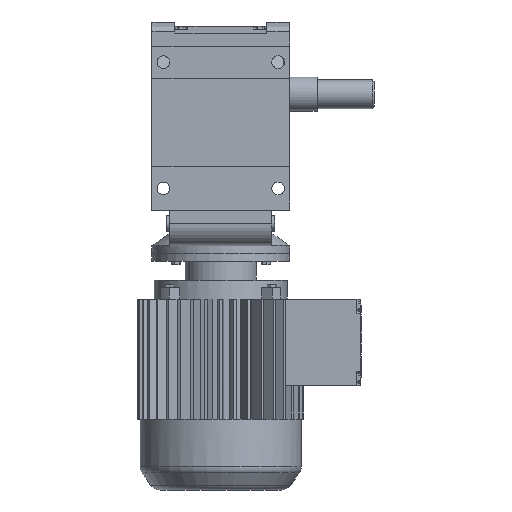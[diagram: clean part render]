
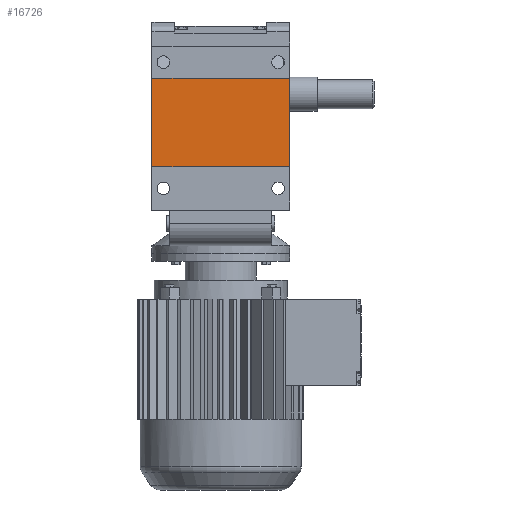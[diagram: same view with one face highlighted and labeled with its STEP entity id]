
A CAD part, front view. The second image highlights one B-rep face of the part: STEP entity #16726.
In plain terms, the highlighted planar face has unit normal (0, -1, 0).
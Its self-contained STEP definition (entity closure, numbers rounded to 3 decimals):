
#6303 = PLANE('',#6304);
#6304 = AXIS2_PLACEMENT_3D('',#6305,#6306,#6307);
#6305 = CARTESIAN_POINT('',(60.,-75.5,42.));
#6306 = DIRECTION('',(1.,0.,0.));
#6307 = DIRECTION('',(0.,0.,-1.));
#6929 = PLANE('',#6930);
#6930 = AXIS2_PLACEMENT_3D('',#6931,#6932,#6933);
#6931 = CARTESIAN_POINT('',(-60.,-75.5,42.));
#6932 = DIRECTION('',(1.,0.,0.));
#6933 = DIRECTION('',(0.,0.,-1.));
#11347 = VERTEX_POINT('',#11348);
#11348 = CARTESIAN_POINT('',(60.,-96.5,14.));
#11362 = PLANE('',#11363);
#11363 = AXIS2_PLACEMENT_3D('',#11364,#11365,#11366);
#11364 = CARTESIAN_POINT('',(60.,-96.5,14.));
#11365 = DIRECTION('',(0.,0.,1.));
#11366 = DIRECTION('',(0.,-1.,0.));
#11374 = EDGE_CURVE('',#11347,#11375,#11377,.T.);
#11375 = VERTEX_POINT('',#11376);
#11376 = CARTESIAN_POINT('',(60.,-96.5,-63.));
#11377 = SURFACE_CURVE('',#11378,(#11382,#11389),.PCURVE_S1.);
#11378 = LINE('',#11379,#11380);
#11379 = CARTESIAN_POINT('',(60.,-96.5,14.));
#11380 = VECTOR('',#11381,1.);
#11381 = DIRECTION('',(0.,0.,-1.));
#11382 = PCURVE('',#6303,#11383);
#11383 = DEFINITIONAL_REPRESENTATION('',(#11384),#11388);
#11384 = LINE('',#11385,#11386);
#11385 = CARTESIAN_POINT('',(28.,-21.));
#11386 = VECTOR('',#11387,1.);
#11387 = DIRECTION('',(1.,0.));
#11388 = ( GEOMETRIC_REPRESENTATION_CONTEXT(2) 
PARAMETRIC_REPRESENTATION_CONTEXT() REPRESENTATION_CONTEXT('2D SPACE',''
  ) );
#11389 = PCURVE('',#11390,#11395);
#11390 = PLANE('',#11391);
#11391 = AXIS2_PLACEMENT_3D('',#11392,#11393,#11394);
#11392 = CARTESIAN_POINT('',(44.5,-96.5,47.));
#11393 = DIRECTION('',(0.,1.,0.));
#11394 = DIRECTION('',(0.,0.,1.));
#11395 = DEFINITIONAL_REPRESENTATION('',(#11396),#11400);
#11396 = LINE('',#11397,#11398);
#11397 = CARTESIAN_POINT('',(-33.,15.5));
#11398 = VECTOR('',#11399,1.);
#11399 = DIRECTION('',(-1.,0.));
#11400 = ( GEOMETRIC_REPRESENTATION_CONTEXT(2) 
PARAMETRIC_REPRESENTATION_CONTEXT() REPRESENTATION_CONTEXT('2D SPACE',''
  ) );
#11418 = PLANE('',#11419);
#11419 = AXIS2_PLACEMENT_3D('',#11420,#11421,#11422);
#11420 = CARTESIAN_POINT('',(60.,-96.5,-63.));
#11421 = DIRECTION('',(0.,0.,-1.));
#11422 = DIRECTION('',(-1.,0.,0.));
#13243 = VERTEX_POINT('',#13244);
#13244 = CARTESIAN_POINT('',(-60.,-96.5,-63.));
#13265 = EDGE_CURVE('',#13266,#13243,#13268,.T.);
#13266 = VERTEX_POINT('',#13267);
#13267 = CARTESIAN_POINT('',(-60.,-96.5,14.));
#13268 = SURFACE_CURVE('',#13269,(#13273,#13280),.PCURVE_S1.);
#13269 = LINE('',#13270,#13271);
#13270 = CARTESIAN_POINT('',(-60.,-96.5,14.));
#13271 = VECTOR('',#13272,1.);
#13272 = DIRECTION('',(0.,0.,-1.));
#13273 = PCURVE('',#6929,#13274);
#13274 = DEFINITIONAL_REPRESENTATION('',(#13275),#13279);
#13275 = LINE('',#13276,#13277);
#13276 = CARTESIAN_POINT('',(28.,-21.));
#13277 = VECTOR('',#13278,1.);
#13278 = DIRECTION('',(1.,0.));
#13279 = ( GEOMETRIC_REPRESENTATION_CONTEXT(2) 
PARAMETRIC_REPRESENTATION_CONTEXT() REPRESENTATION_CONTEXT('2D SPACE',''
  ) );
#13280 = PCURVE('',#11390,#13281);
#13281 = DEFINITIONAL_REPRESENTATION('',(#13282),#13286);
#13282 = LINE('',#13283,#13284);
#13283 = CARTESIAN_POINT('',(-33.,-104.5));
#13284 = VECTOR('',#13285,1.);
#13285 = DIRECTION('',(-1.,0.));
#13286 = ( GEOMETRIC_REPRESENTATION_CONTEXT(2) 
PARAMETRIC_REPRESENTATION_CONTEXT() REPRESENTATION_CONTEXT('2D SPACE',''
  ) );
#16726 = ADVANCED_FACE('',(#16727),#11390,.F.);
#16727 = FACE_BOUND('',#16728,.T.);
#16728 = EDGE_LOOP('',(#16729,#16750,#16751,#16772));
#16729 = ORIENTED_EDGE('',*,*,#16730,.T.);
#16730 = EDGE_CURVE('',#11347,#13266,#16731,.T.);
#16731 = SURFACE_CURVE('',#16732,(#16736,#16743),.PCURVE_S1.);
#16732 = LINE('',#16733,#16734);
#16733 = CARTESIAN_POINT('',(60.,-96.5,14.));
#16734 = VECTOR('',#16735,1.);
#16735 = DIRECTION('',(-1.,0.,0.));
#16736 = PCURVE('',#11390,#16737);
#16737 = DEFINITIONAL_REPRESENTATION('',(#16738),#16742);
#16738 = LINE('',#16739,#16740);
#16739 = CARTESIAN_POINT('',(-33.,15.5));
#16740 = VECTOR('',#16741,1.);
#16741 = DIRECTION('',(0.,-1.));
#16742 = ( GEOMETRIC_REPRESENTATION_CONTEXT(2) 
PARAMETRIC_REPRESENTATION_CONTEXT() REPRESENTATION_CONTEXT('2D SPACE',''
  ) );
#16743 = PCURVE('',#11362,#16744);
#16744 = DEFINITIONAL_REPRESENTATION('',(#16745),#16749);
#16745 = LINE('',#16746,#16747);
#16746 = CARTESIAN_POINT('',(0.,0.));
#16747 = VECTOR('',#16748,1.);
#16748 = DIRECTION('',(0.,-1.));
#16749 = ( GEOMETRIC_REPRESENTATION_CONTEXT(2) 
PARAMETRIC_REPRESENTATION_CONTEXT() REPRESENTATION_CONTEXT('2D SPACE',''
  ) );
#16750 = ORIENTED_EDGE('',*,*,#13265,.T.);
#16751 = ORIENTED_EDGE('',*,*,#16752,.F.);
#16752 = EDGE_CURVE('',#11375,#13243,#16753,.T.);
#16753 = SURFACE_CURVE('',#16754,(#16758,#16765),.PCURVE_S1.);
#16754 = LINE('',#16755,#16756);
#16755 = CARTESIAN_POINT('',(60.,-96.5,-63.));
#16756 = VECTOR('',#16757,1.);
#16757 = DIRECTION('',(-1.,0.,0.));
#16758 = PCURVE('',#11390,#16759);
#16759 = DEFINITIONAL_REPRESENTATION('',(#16760),#16764);
#16760 = LINE('',#16761,#16762);
#16761 = CARTESIAN_POINT('',(-110.,15.5));
#16762 = VECTOR('',#16763,1.);
#16763 = DIRECTION('',(0.,-1.));
#16764 = ( GEOMETRIC_REPRESENTATION_CONTEXT(2) 
PARAMETRIC_REPRESENTATION_CONTEXT() REPRESENTATION_CONTEXT('2D SPACE',''
  ) );
#16765 = PCURVE('',#11418,#16766);
#16766 = DEFINITIONAL_REPRESENTATION('',(#16767),#16771);
#16767 = LINE('',#16768,#16769);
#16768 = CARTESIAN_POINT('',(0.,0.));
#16769 = VECTOR('',#16770,1.);
#16770 = DIRECTION('',(1.,0.));
#16771 = ( GEOMETRIC_REPRESENTATION_CONTEXT(2) 
PARAMETRIC_REPRESENTATION_CONTEXT() REPRESENTATION_CONTEXT('2D SPACE',''
  ) );
#16772 = ORIENTED_EDGE('',*,*,#11374,.F.);
